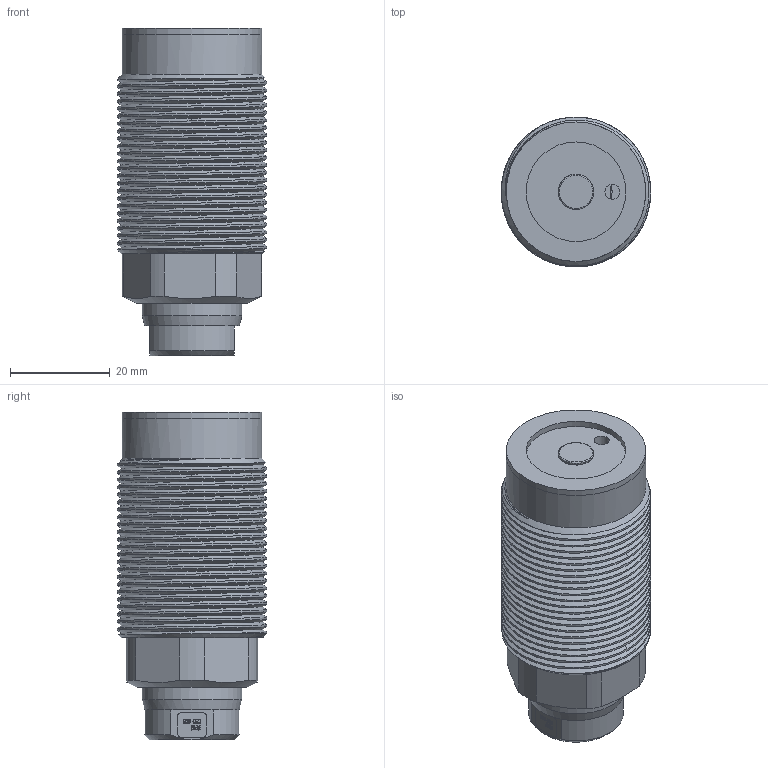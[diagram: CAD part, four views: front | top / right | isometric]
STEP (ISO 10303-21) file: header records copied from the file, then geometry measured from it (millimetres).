
FILE_DESCRIPTION(/* description */ (''),/* implementation_level */ '2;1');
FILE_NAME(/* name */ 'CTC-20B.stp',/* time_stamp */ '2022-04-28T11:04:54+08:00',/* author */ (''),/* organization */ (''),/* preprocessor_version */ 'ST-DEVELOPER v16.7',/* originating_system */ 'SIEMENS PLM Software NX 12.0',/* authorisation */ '');
FILE_SCHEMA (('AUTOMOTIVE_DESIGN { 1 0 10303 214 3 1 1 1 }'));
Length unit declared in the file: millimetre
Products named in the file (1): CTC-20B
Bounding box: 30 x 30 x 65.75 mm (x, y, z)
Volume: 32461.8 mm3; surface area: 21470.9 mm2
Topology: 5 solids, 5 shells, 277 faces, 720 edges, 479 vertices
Faces by surface type: plane 160, extrusion 53, cylinder 34, bspline 20, cone 8, torus 2
Full cylindrical faces by diameter (mm): 3 x1, 3.995 x1, 6.5 x1, 6.8 x1, 7.1 x1, 7.5 x3, 8.6 x1, 14 x1, 14.5 x1, 20 x3, 23 x2, 24 x2, 28 x2
Entity records: 16885 total; most frequent: CARTESIAN_POINT 9350, ORIENTED_EDGE 1344, DIRECTION 1021, EDGE_CURVE 672, VECTOR 469, VERTEX_POINT 462, LINE 416, EDGE_LOOP 337
